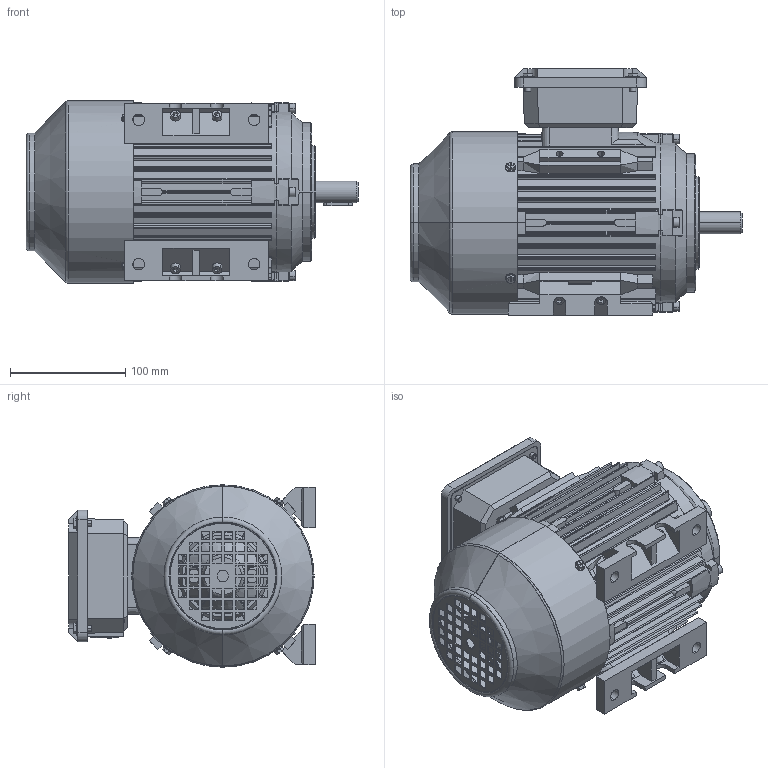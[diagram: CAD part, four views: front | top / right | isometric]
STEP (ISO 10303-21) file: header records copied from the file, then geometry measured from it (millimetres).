
FILE_DESCRIPTION (( 'STEP AP203' ), '1' );
FILE_NAME ('TC 80 B34外形图-大接线盒.STEP', '2016-03-07T03:03:47', ( '微软用户' ), ( '微软中国' ), 'SwSTEP 2.0', 'SolidWorks 2008', '' );
FILE_SCHEMA (( 'CONFIG_CONTROL_DESIGN' ));
Length unit declared in the file: millimetre
Products named in the file (19): TC 80底脚_默认; TC 80-90风叶_默认; 油封20-34-7_默认; 平键6-25_默认; M20螺塞_默认; M4-6_默认; TC 80 B34俋倛芞-湮諉盄碟; TC80 B5 机壳_默认; TC 80 B3端盖_默认; TC 80转子_默认; TC 80转轴_默认; 6204_默认; TC 80风罩_默认; 5_默认; M5-20_默认; M5-12_默认; TC 80 B14端盖_默认; TC 90-100 接线盒座_默认; TC 90-100 接线盒盖_默认
Assembly tree (38 placements, depth 3):
  TC 80 B34俋倛芞-湮諉盄碟
    M4-6_默认  x4
    M5-20_默认  x8
    TC 80转子_默认
      6204_默认  x2
      TC 80转轴_默认
    油封20-34-7_默认  x2
    TC80 B5 机壳_默认
    M5-12_默认  x4
    TC 80底脚_默认  x2
    TC 80 B3端盖_默认
    5_默认  x4
    M20螺塞_默认  x2
    TC 90-100 接线盒盖_默认
    TC 80风罩_默认
    TC 90-100 接线盒座_默认
    TC 80 B14端盖_默认
    TC 80-90风叶_默认
    平键6-25_默认
Bounding box: 287.5 x 213.51 x 158 mm (x, y, z)
Volume: 1210679.7 mm3; surface area: 607435.6 mm2
Topology: 37 solids, 37 shells, 2651 faces, 6962 edges, 4506 vertices
Faces by surface type: plane 1528, cylinder 751, cone 158, bspline 116, torus 98
Entity records: 72442 total; most frequent: CARTESIAN_POINT 18820, ORIENTED_EDGE 10912, DIRECTION 10352, EDGE_CURVE 5456, AXIS2_PLACEMENT_3D 3620, VERTEX_POINT 3537, VECTOR 3112, LINE 3112
